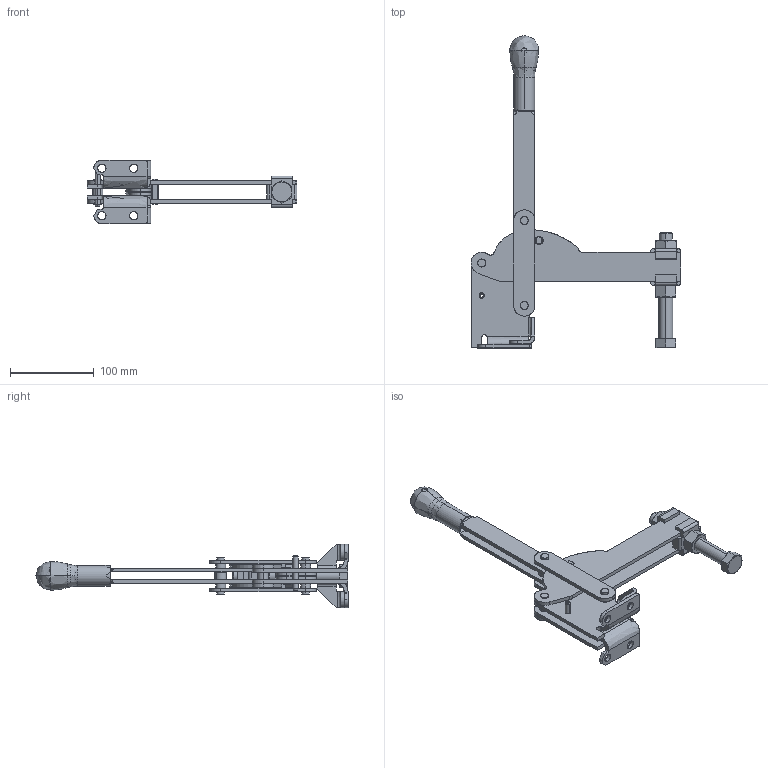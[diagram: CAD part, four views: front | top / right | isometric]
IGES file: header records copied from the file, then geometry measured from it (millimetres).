
Start section: ---------- IGES file using analytic representation for surfaces
Global section: file name: ---------------------------------------; native system: -41HS----------2005 by ---------- -----------; preprocessor: ---------- 2005 -------------------------; author: -------; date: 060228.170344; units: inch
Bounding box: 250.82 x 373.05 x 75.84 mm (x, y, z)
Surface area: 190757.8 mm2 (no closed solid volume)
Topology: 0 solids, 0 shells, 591 faces, 9532 edges, 9532 vertices
Faces by surface type: revolution 305, bspline 286
